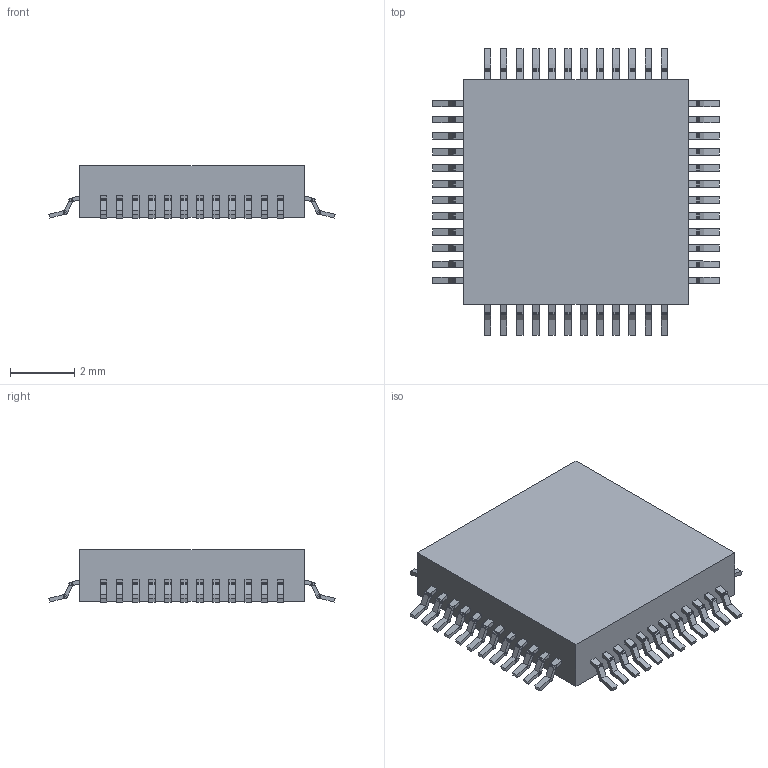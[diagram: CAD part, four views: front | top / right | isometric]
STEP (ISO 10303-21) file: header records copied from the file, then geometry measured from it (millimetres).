
FILE_DESCRIPTION(('FreeCAD Model'),'2;1');
FILE_NAME('Open CASCADE Shape Model','2021-06-28T19:58:46',('Author'),( ''),'Open CASCADE STEP processor 7.5','FreeCAD','Unknown');
FILE_SCHEMA(('AUTOMOTIVE_DESIGN { 1 0 10303 214 1 1 1 1 }'));
Products named in the file (1): Group050
Bounding box: 8.93 x 8.93 x 1.63 mm (x, y, z)
Volume: 79.8 mm3; surface area: 180.3 mm2
Topology: 1 solids, 1 shells, 2358 faces, 8556 edges, 6248 vertices
Faces by surface type: plane 2358
Entity records: 218154 total; most frequent: CARTESIAN_POINT 35235, DIRECTION 29426, LINE 24708, VECTOR 24708, ORIENTED_EDGE 17112, PCURVE 17112, DEFINITIONAL_REPRESENTATION 17112, EDGE_CURVE 8556
